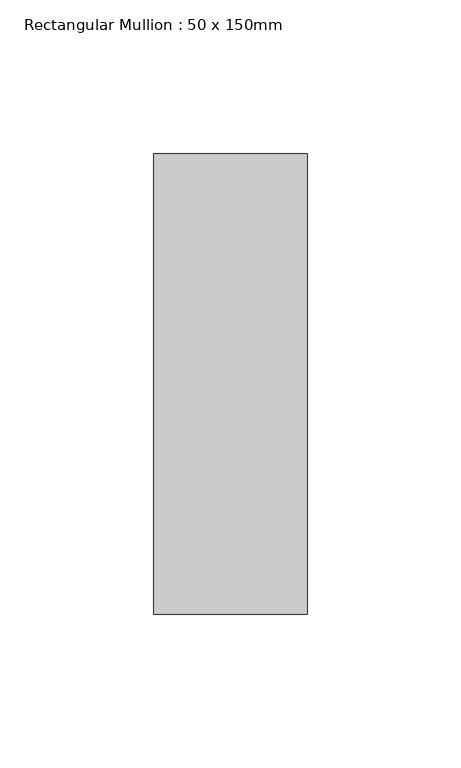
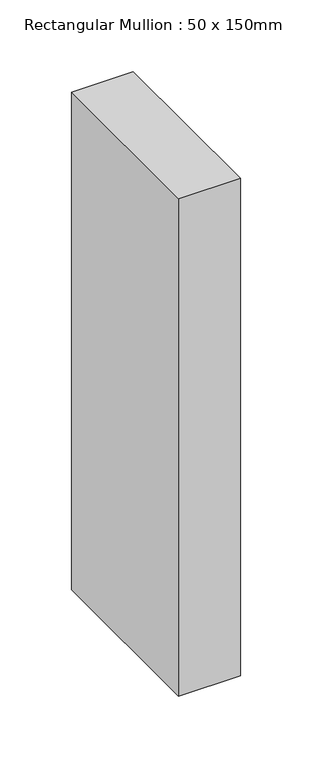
"""IFC4 building model written with IfcOpenShell, lengths in millimetres: member geometry, Rectangular Mullion : 50 x 150mm."""

from ifc_helpers import new_model, si_unit, frame, origin, place, context, project, spatial, polyline, outline, extrude, source, transform, mapped, element, save


def rectangular_mullion_50_x_150mm_89c22e8d(model_context):
    return source(origin(), model_context, "Body", "SweptSolid", [
        extrude(outline(polyline([(0.0, 75.0), (0.0, -75.0), (-50.0, -75.0), (-50.0, 75.0), (0.0, 75.0)])), frame((0.0, 0.0, -425.0), z_axis=(0.0, 0.0, 1.0), x_axis=(1.0, 0.0, 0.0)), (0.0, 0.0, 1.0), 425.0),
    ])


if __name__ == "__main__":
    model = new_model("IFC4")
    model_context = context("Model", 3, world=origin())
    ifc_project = project(units=[si_unit("LENGTHUNIT", "METRE", prefix="MILLI")], contexts=[model_context])
    site = spatial("IfcSite", under=ifc_project)
    building = spatial("IfcBuilding", under=site)
    placement = place(None, origin())
    rectangular_mullion_50_x_150mm_shape = rectangular_mullion_50_x_150mm_89c22e8d(model_context)
    element("IfcMember", 1, ObjectType="Rectangular Mullion : 50 x 150mm", at=placement, inside=building, context=model_context, shape_type="MappedRepresentation", body=[
        mapped(rectangular_mullion_50_x_150mm_shape, transform((0.0, 0.0, 0.0), x_axis=(1.0, 0.0, 0.0), y_axis=(0.0, 1.0, 0.0), z_axis=(0.0, 0.0, 1.0))),
    ])
    save(model, "model.ifc")
